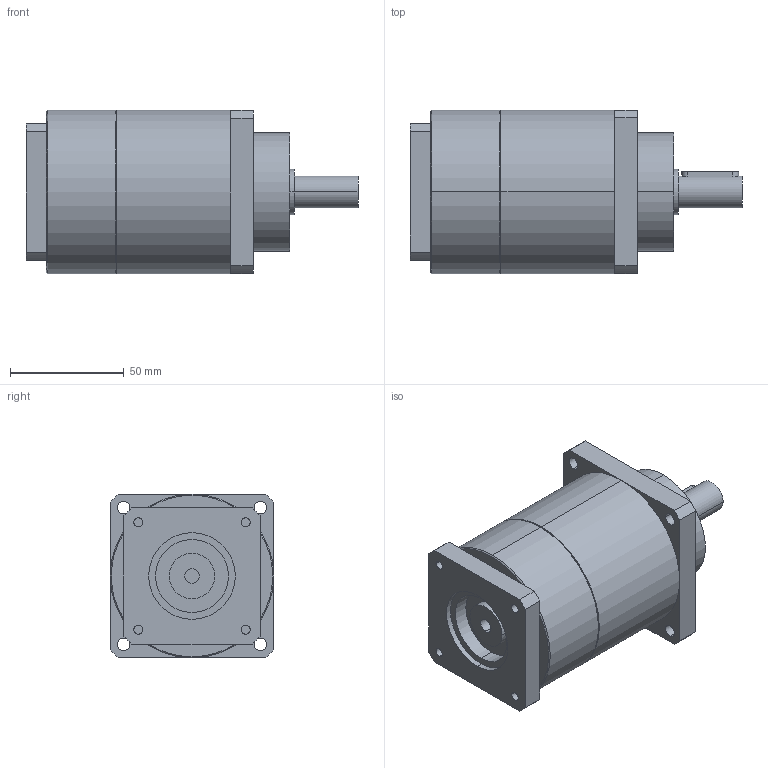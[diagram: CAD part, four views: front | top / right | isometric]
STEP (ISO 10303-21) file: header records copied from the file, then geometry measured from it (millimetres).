
FILE_DESCRIPTION(('CoCreate Modeling STEP Export'),'2;1');
FILE_NAME('GPT75_ig-9-12-16-20-25-28-35-40-50-70-100_14_B5T_6.35_P28.stp','2014-08-27T13:39:40',(''),(''),'CoCreate Modeling STEP processor for AP214 (Solid Model)','CoCreate Modeling 16.00C 25-Feb-2009 (C) Parametric Technology GmbH','');
FILE_SCHEMA(('AUTOMOTIVE_DESIGN { 1 0 10303 214 1 1 1 1 }'));
Length unit declared in the file: millimetre
Products named in the file (2): GPT75_ig-9-12-16-20-25-28-35-40-50-70-100_14_B5T_6.35_P28
Assembly tree (1 placements, depth 2):
  GPT75_ig-9-12-16-20-25-28-35-40-50-70-100_14_B5T_6.35_P28
    GPT75_ig-9-12-16-20-25-28-35-40-50-70-100_14_B5T_6.35_P28
Bounding box: 146 x 72 x 72 mm (x, y, z)
Volume: 443067.1 mm3; surface area: 41037.7 mm2
Topology: 1 solids, 1 shells, 88 faces, 210 edges, 137 vertices
Faces by surface type: cylinder 46, plane 38, cone 4
Entity records: 2592 total; most frequent: CARTESIAN_POINT 732, ORIENTED_EDGE 420, DIRECTION 326, EDGE_CURVE 210, VERTEX_POINT 137, AXIS2_PLACEMENT_3D 119, EDGE_LOOP 109, VECTOR 88
